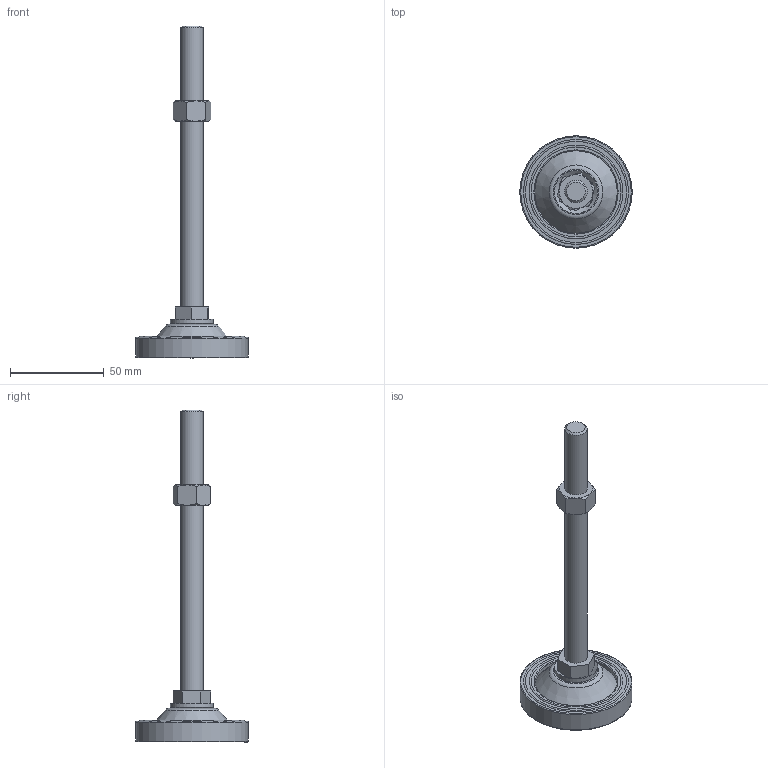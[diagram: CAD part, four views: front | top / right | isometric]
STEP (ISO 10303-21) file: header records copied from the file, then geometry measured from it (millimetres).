
FILE_DESCRIPTION((' '),'2;1');
FILE_NAME('Y:\00. A standard brand\06. 3D Modeling\외부전송용_STEP\LEVELLING FOOT(STEP)\A-PLR SERIES STEP\A-PLR-12-150.stp.stp','2011-11-22T18:37:48',(' '),(' '),' ','ACIS',' ');
FILE_SCHEMA(('CONFIG_CONTROL_DESIGN'));
Length unit declared in the file: millimetre
Products named in the file (1): Y:\00. A standard brand\06. 3D Modeling\외부전송용_STEP\LEVELLING FOOT(STEP)\A-PLR SERIES STEP\A-PLR-12-150.stp.stp
Bounding box: 60 x 60 x 177.25 mm (x, y, z)
Volume: 49569.5 mm3; surface area: 21276.2 mm2
Topology: 2 solids, 3 shells, 116 faces, 264 edges, 166 vertices
Faces by surface type: plane 54, cylinder 20, cone 17, torus 15, bspline 10
Full cylindrical faces by diameter (mm): 8 x1, 12 x4, 16 x1, 19.27 x1, 23 x1, 31 x1, 44 x2, 60 x1
Entity records: 3468 total; most frequent: CARTESIAN_POINT 1043, DIRECTION 478, ORIENTED_EDGE 428, EDGE_CURVE 214, AXIS2_PLACEMENT_3D 193, EDGE_LOOP 164, VERTEX_POINT 152, FACE_OUTER_BOUND 116
